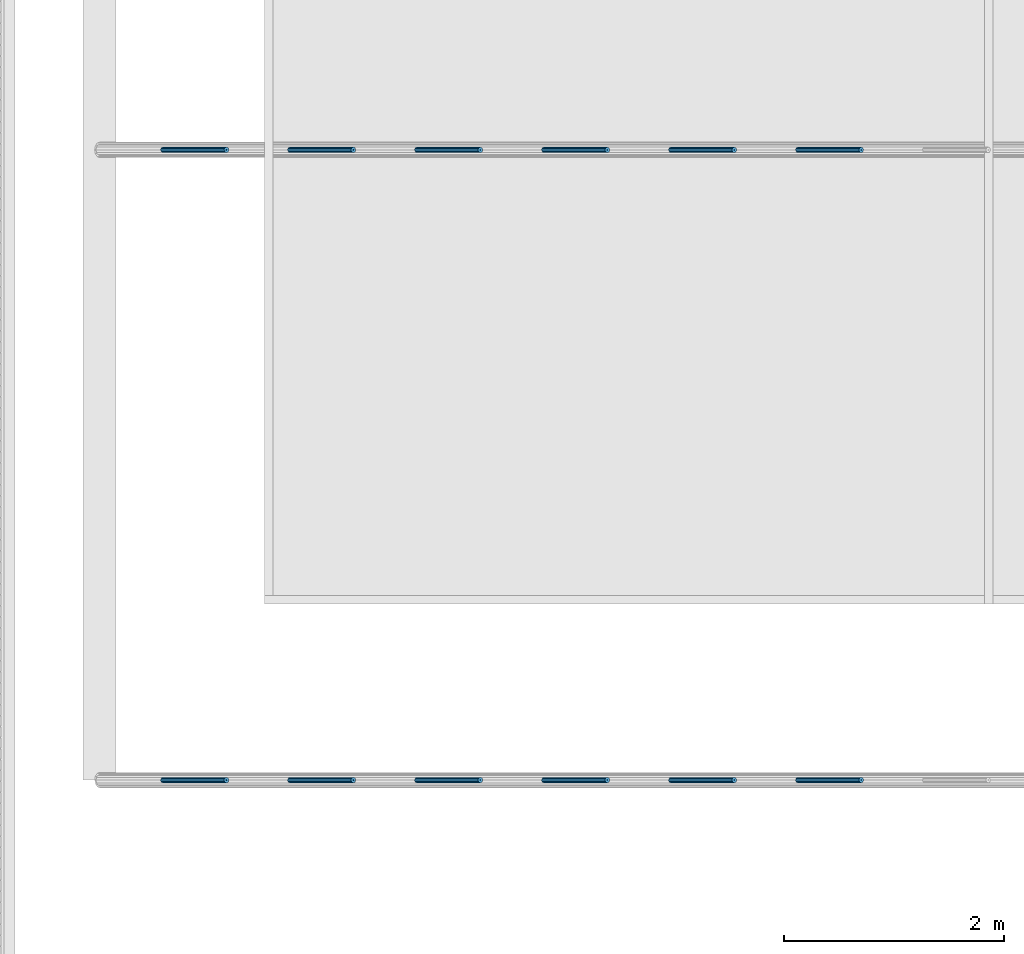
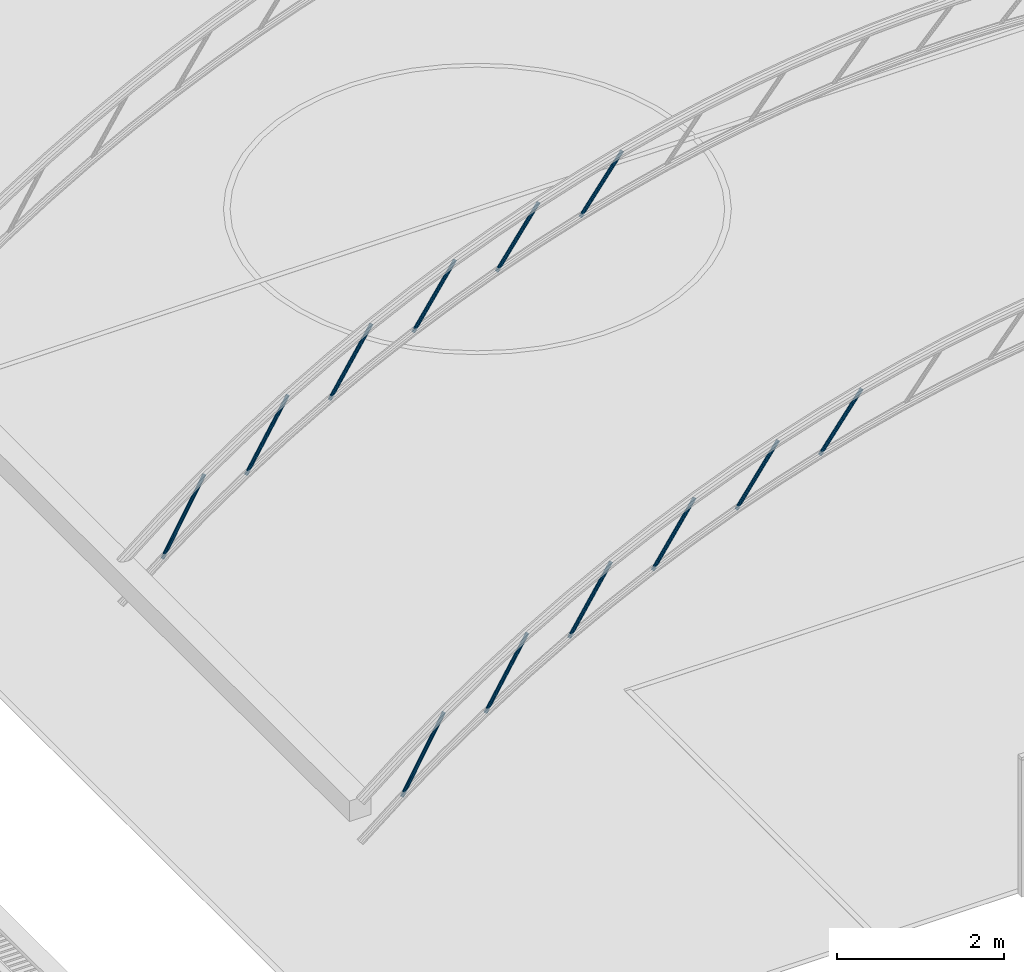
# One storey, part 10 of 90: 12 beams.
"""IFC2X3 building model written with IfcOpenShell, lengths in metres."""

from ifc_helpers import new_model, si_unit, origin, origin_with_axes, place, context, subcontext, project, spatial, faceted_brep, element, save


model = new_model("IFC2X3")

# Units and contexts
model_context = context("Model", 3, precision=1e-05, world=origin_with_axes())
body_context = subcontext(model_context, "Body", "Model", "MODEL_VIEW")
ifc_project = project(units=[si_unit("LENGTHUNIT", "METRE"), si_unit("AREAUNIT", "SQUARE_METRE"), si_unit("VOLUMEUNIT", "CUBIC_METRE"), si_unit("PLANEANGLEUNIT", "RADIAN")], contexts=[model_context])

# Site, building, storey
site_placement = place(None, origin_with_axes())
site = spatial("IfcSite", under=ifc_project, at=site_placement, Name="Predio Los Mangos - Morales, San Martín", CompositionType="ELEMENT")
building_placement = place(site_placement, origin())
building = spatial("IfcBuilding", under=site, at=building_placement, Name="Hogar de Refugio Temporal", CompositionType="ELEMENT")
storey_placement = place(building_placement, origin())
storey = spatial("IfcBuildingStorey", under=building, at=storey_placement, Name="NIVEL 1 (NPT +0.00)", CompositionType="ELEMENT", Elevation=0.0)

# Beams
beam_1_placement = place(storey_placement, origin())
element("IfcBeam", 1, at=beam_1_placement, inside=storey, Name="diag", ObjectType="Viga", context=body_context, shape_type="Brep", body=[
    faceted_brep([(4.0666, 92.6217, 5.8202), (4.6441, 92.6217, 6.8469), (4.655, 92.625, 6.8408), (4.0775, 92.625, 5.8141), (4.0586, 92.6125, 5.8247), (4.6361, 92.6125, 6.8514), (4.0557, 92.6, 5.8263), (4.6332, 92.6, 6.8531), (4.0586, 92.5875, 5.8247), (4.6361, 92.5875, 6.8514), (4.0666, 92.5783, 5.8202), (4.6441, 92.5783, 6.8469), (4.0775, 92.575, 5.8141), (4.655, 92.575, 6.8408), (4.0884, 92.5783, 5.808), (4.6659, 92.5783, 6.8347), (4.0964, 92.5875, 5.8035), (4.6739, 92.5875, 6.8302), (4.0993, 92.6, 5.8018), (4.6768, 92.6, 6.8286), (4.0964, 92.6125, 5.8035), (4.6739, 92.6125, 6.8302), (4.0884, 92.6217, 5.808), (4.6659, 92.6217, 6.8347), (4.0756, 92.6037, 5.8151), (4.0775, 92.6043, 5.8141), (4.655, 92.6043, 6.8408), (4.6531, 92.6037, 6.8419), (4.0743, 92.6021, 5.8159), (4.6518, 92.6021, 6.8426), (4.0738, 92.6, 5.8162), (4.6513, 92.6, 6.8429), (4.0743, 92.5979, 5.8159), (4.6518, 92.5979, 6.8426), (4.0756, 92.5963, 5.8151), (4.6531, 92.5963, 6.8419), (4.0775, 92.5957, 5.8141), (4.655, 92.5957, 6.8408), (4.0794, 92.5963, 5.813), (4.6569, 92.5963, 6.8398), (4.0807, 92.5979, 5.8123), (4.6582, 92.5979, 6.839), (4.0812, 92.6, 5.812), (4.6587, 92.6, 6.8387), (4.0807, 92.6021, 5.8123), (4.6582, 92.6021, 6.839), (4.0794, 92.6037, 5.813), (4.6569, 92.6037, 6.8398)], [[[0, 1, 2, 3]], [[4, 5, 1, 0]], [[6, 7, 5, 4]], [[8, 9, 7, 6]], [[10, 11, 9, 8]], [[12, 13, 11, 10]], [[14, 15, 13, 12]], [[16, 17, 15, 14]], [[18, 19, 17, 16]], [[20, 21, 19, 18]], [[22, 23, 21, 20]], [[3, 2, 23, 22]], [[24, 25, 26, 27]], [[28, 24, 27, 29]], [[30, 28, 29, 31]], [[32, 30, 31, 33]], [[34, 32, 33, 35]], [[36, 34, 35, 37]], [[38, 36, 37, 39]], [[40, 38, 39, 41]], [[42, 40, 41, 43]], [[44, 42, 43, 45]], [[46, 44, 45, 47]], [[25, 46, 47, 26]], [[11, 13, 37, 35]], [[21, 23, 47, 45]], [[4, 0, 24, 28]], [[14, 12, 36, 38]], [[3, 22, 46, 25]], [[7, 9, 33, 31]], [[17, 19, 43, 41]], [[23, 2, 26, 47]], [[10, 8, 32, 34]], [[20, 18, 42, 44]], [[1, 5, 29, 27]], [[13, 15, 39, 37]], [[6, 4, 28, 30]], [[16, 14, 38, 40]], [[0, 3, 25, 24]], [[9, 11, 35, 33]], [[19, 21, 45, 43]], [[12, 10, 34, 36]], [[22, 20, 44, 46]], [[5, 7, 31, 29]], [[15, 17, 41, 39]], [[2, 1, 27, 26]], [[8, 6, 30, 32]], [[18, 16, 40, 42]]]),
])
beam_2_placement = place(storey_placement, origin())
element("IfcBeam", 2, at=beam_2_placement, inside=storey, Name="diag", ObjectType="Viga", context=body_context, shape_type="Brep", body=[
    faceted_brep([(5.2218, 92.6217, 6.6398), (5.7993, 92.6217, 7.6007), (5.81, 92.625, 7.5943), (5.2325, 92.625, 6.6333), (5.2139, 92.6125, 6.6445), (5.7914, 92.6125, 7.6055), (5.2111, 92.6, 6.6462), (5.7886, 92.6, 7.6072), (5.2139, 92.5875, 6.6445), (5.7914, 92.5875, 7.6055), (5.2218, 92.5783, 6.6398), (5.7993, 92.5783, 7.6007), (5.2325, 92.575, 6.6333), (5.81, 92.575, 7.5943), (5.2432, 92.5783, 6.6269), (5.8207, 92.5783, 7.5879), (5.2511, 92.5875, 6.6222), (5.8286, 92.5875, 7.5832), (5.2539, 92.6, 6.6205), (5.8314, 92.6, 7.5814), (5.2511, 92.6125, 6.6222), (5.8286, 92.6125, 7.5832), (5.2432, 92.6217, 6.6269), (5.8207, 92.6217, 7.5879), (5.2307, 92.6037, 6.6345), (5.2325, 92.6043, 6.6333), (5.81, 92.6043, 7.5943), (5.8082, 92.6037, 7.5954), (5.2293, 92.6021, 6.6353), (5.8068, 92.6021, 7.5962), (5.2288, 92.6, 6.6356), (5.8063, 92.6, 7.5965), (5.2293, 92.5979, 6.6353), (5.8068, 92.5979, 7.5962), (5.2307, 92.5963, 6.6345), (5.8082, 92.5963, 7.5954), (5.2325, 92.5957, 6.6333), (5.81, 92.5957, 7.5943), (5.2343, 92.5963, 6.6322), (5.8118, 92.5963, 7.5932), (5.2357, 92.5979, 6.6314), (5.8132, 92.5979, 7.5924), (5.2362, 92.6, 6.6311), (5.8137, 92.6, 7.5921), (5.2357, 92.6021, 6.6314), (5.8132, 92.6021, 7.5924), (5.2343, 92.6037, 6.6322), (5.8118, 92.6037, 7.5932)], [[[0, 1, 2, 3]], [[4, 5, 1, 0]], [[6, 7, 5, 4]], [[8, 9, 7, 6]], [[10, 11, 9, 8]], [[12, 13, 11, 10]], [[14, 15, 13, 12]], [[16, 17, 15, 14]], [[18, 19, 17, 16]], [[20, 21, 19, 18]], [[22, 23, 21, 20]], [[3, 2, 23, 22]], [[24, 25, 26, 27]], [[28, 24, 27, 29]], [[30, 28, 29, 31]], [[32, 30, 31, 33]], [[34, 32, 33, 35]], [[36, 34, 35, 37]], [[38, 36, 37, 39]], [[40, 38, 39, 41]], [[42, 40, 41, 43]], [[44, 42, 43, 45]], [[46, 44, 45, 47]], [[25, 46, 47, 26]], [[11, 13, 37, 35]], [[21, 23, 47, 45]], [[4, 0, 24, 28]], [[14, 12, 36, 38]], [[3, 22, 46, 25]], [[7, 9, 33, 31]], [[17, 19, 43, 41]], [[23, 2, 26, 47]], [[10, 8, 32, 34]], [[20, 18, 42, 44]], [[1, 5, 29, 27]], [[13, 15, 39, 37]], [[6, 4, 28, 30]], [[16, 14, 38, 40]], [[0, 3, 25, 24]], [[9, 11, 35, 33]], [[19, 21, 45, 43]], [[12, 10, 34, 36]], [[22, 20, 44, 46]], [[5, 7, 31, 29]], [[15, 17, 41, 39]], [[2, 1, 27, 26]], [[8, 6, 30, 32]], [[18, 16, 40, 42]]]),
])
beam_3_placement = place(storey_placement, origin())
element("IfcBeam", 3, at=beam_3_placement, inside=storey, Name="diag", ObjectType="Viga", context=body_context, shape_type="Brep", body=[
    faceted_brep([(6.377, 92.6217, 7.3326), (6.9545, 92.6217, 8.2366), (6.965, 92.625, 8.2298), (6.3875, 92.625, 7.3259), (6.3693, 92.6125, 7.3375), (6.9468, 92.6125, 8.2415), (6.3664, 92.6, 7.3393), (6.9439, 92.6, 8.2433), (6.3693, 92.5875, 7.3375), (6.9468, 92.5875, 8.2415), (6.377, 92.5783, 7.3326), (6.9545, 92.5783, 8.2366), (6.3875, 92.575, 7.3259), (6.965, 92.575, 8.2298), (6.398, 92.5783, 7.3191), (6.9755, 92.5783, 8.2231), (6.4057, 92.5875, 7.3142), (6.9832, 92.5875, 8.2182), (6.4086, 92.6, 7.3124), (6.9861, 92.6, 8.2164), (6.4057, 92.6125, 7.3142), (6.9832, 92.6125, 8.2182), (6.398, 92.6217, 7.3191), (6.9755, 92.6217, 8.2231), (6.3857, 92.6037, 7.327), (6.3875, 92.6043, 7.3259), (6.965, 92.6043, 8.2298), (6.9632, 92.6037, 8.231), (6.3844, 92.6021, 7.3279), (6.9619, 92.6021, 8.2318), (6.3839, 92.6, 7.3282), (6.9614, 92.6, 8.2321), (6.3844, 92.5979, 7.3279), (6.9619, 92.5979, 8.2318), (6.3857, 92.5963, 7.327), (6.9632, 92.5963, 8.231), (6.3875, 92.5957, 7.3259), (6.965, 92.5957, 8.2298), (6.3893, 92.5963, 7.3247), (6.9668, 92.5963, 8.2287), (6.3906, 92.5979, 7.3239), (6.9681, 92.5979, 8.2278), (6.3911, 92.6, 7.3235), (6.9686, 92.6, 8.2275), (6.3906, 92.6021, 7.3239), (6.9681, 92.6021, 8.2278), (6.3893, 92.6037, 7.3247), (6.9668, 92.6037, 8.2287)], [[[0, 1, 2, 3]], [[4, 5, 1, 0]], [[6, 7, 5, 4]], [[8, 9, 7, 6]], [[10, 11, 9, 8]], [[12, 13, 11, 10]], [[14, 15, 13, 12]], [[16, 17, 15, 14]], [[18, 19, 17, 16]], [[20, 21, 19, 18]], [[22, 23, 21, 20]], [[3, 2, 23, 22]], [[24, 25, 26, 27]], [[28, 24, 27, 29]], [[30, 28, 29, 31]], [[32, 30, 31, 33]], [[34, 32, 33, 35]], [[36, 34, 35, 37]], [[38, 36, 37, 39]], [[40, 38, 39, 41]], [[42, 40, 41, 43]], [[44, 42, 43, 45]], [[46, 44, 45, 47]], [[25, 46, 47, 26]], [[11, 13, 37, 35]], [[21, 23, 47, 45]], [[4, 0, 24, 28]], [[14, 12, 36, 38]], [[3, 22, 46, 25]], [[7, 9, 33, 31]], [[17, 19, 43, 41]], [[23, 2, 26, 47]], [[10, 8, 32, 34]], [[20, 18, 42, 44]], [[1, 5, 29, 27]], [[13, 15, 39, 37]], [[6, 4, 28, 30]], [[16, 14, 38, 40]], [[0, 3, 25, 24]], [[9, 11, 35, 33]], [[19, 21, 45, 43]], [[12, 10, 34, 36]], [[22, 20, 44, 46]], [[5, 7, 31, 29]], [[15, 17, 41, 39]], [[2, 1, 27, 26]], [[8, 6, 30, 32]], [[18, 16, 40, 42]]]),
])
beam_4_placement = place(storey_placement, origin())
element("IfcBeam", 4, at=beam_4_placement, inside=storey, Name="diag", ObjectType="Viga", context=body_context, shape_type="Brep", body=[
    faceted_brep([(7.5321, 92.6217, 7.9148), (8.1096, 92.6217, 8.7679), (8.12, 92.625, 8.7609), (7.5425, 92.625, 7.9077), (7.5246, 92.6125, 7.9199), (8.1021, 92.6125, 8.7731), (7.5218, 92.6, 7.9218), (8.0993, 92.6, 8.7749), (7.5246, 92.5875, 7.9199), (8.1021, 92.5875, 8.7731), (7.5321, 92.5783, 7.9148), (8.1096, 92.5783, 8.7679), (7.5425, 92.575, 7.9077), (8.12, 92.575, 8.7609), (7.5529, 92.5783, 7.9007), (8.1304, 92.5783, 8.7539), (7.5604, 92.5875, 7.8956), (8.1379, 92.5875, 8.7488), (7.5632, 92.6, 7.8937), (8.1407, 92.6, 8.7469), (7.5604, 92.6125, 7.8956), (8.1379, 92.6125, 8.7488), (7.5529, 92.6217, 7.9007), (8.1304, 92.6217, 8.7539), (7.5407, 92.6037, 7.9089), (7.5425, 92.6043, 7.9077), (8.12, 92.6043, 8.7609), (8.1182, 92.6037, 8.7621), (7.5394, 92.6021, 7.9098), (8.1169, 92.6021, 8.763), (7.5389, 92.6, 7.9102), (8.1164, 92.6, 8.7633), (7.5394, 92.5979, 7.9098), (8.1169, 92.5979, 8.763), (7.5407, 92.5963, 7.9089), (8.1182, 92.5963, 8.7621), (7.5425, 92.5957, 7.9077), (8.12, 92.5957, 8.7609), (7.5443, 92.5963, 7.9065), (8.1218, 92.5963, 8.7597), (7.5456, 92.5979, 7.9057), (8.1231, 92.5979, 8.7588), (7.5461, 92.6, 7.9053), (8.1236, 92.6, 8.7585), (7.5456, 92.6021, 7.9057), (8.1231, 92.6021, 8.7588), (7.5443, 92.6037, 7.9065), (8.1218, 92.6037, 8.7597)], [[[0, 1, 2, 3]], [[4, 5, 1, 0]], [[6, 7, 5, 4]], [[8, 9, 7, 6]], [[10, 11, 9, 8]], [[12, 13, 11, 10]], [[14, 15, 13, 12]], [[16, 17, 15, 14]], [[18, 19, 17, 16]], [[20, 21, 19, 18]], [[22, 23, 21, 20]], [[3, 2, 23, 22]], [[24, 25, 26, 27]], [[28, 24, 27, 29]], [[30, 28, 29, 31]], [[32, 30, 31, 33]], [[34, 32, 33, 35]], [[36, 34, 35, 37]], [[38, 36, 37, 39]], [[40, 38, 39, 41]], [[42, 40, 41, 43]], [[44, 42, 43, 45]], [[46, 44, 45, 47]], [[25, 46, 47, 26]], [[11, 13, 37, 35]], [[21, 23, 47, 45]], [[4, 0, 24, 28]], [[14, 12, 36, 38]], [[3, 22, 46, 25]], [[7, 9, 33, 31]], [[17, 19, 43, 41]], [[23, 2, 26, 47]], [[10, 8, 32, 34]], [[20, 18, 42, 44]], [[1, 5, 29, 27]], [[13, 15, 39, 37]], [[6, 4, 28, 30]], [[16, 14, 38, 40]], [[0, 3, 25, 24]], [[9, 11, 35, 33]], [[19, 21, 45, 43]], [[12, 10, 34, 36]], [[22, 20, 44, 46]], [[5, 7, 31, 29]], [[15, 17, 41, 39]], [[2, 1, 27, 26]], [[8, 6, 30, 32]], [[18, 16, 40, 42]]]),
])
beam_5_placement = place(storey_placement, origin())
element("IfcBeam", 5, at=beam_5_placement, inside=storey, Name="diag", ObjectType="Viga", context=body_context, shape_type="Brep", body=[
    faceted_brep([(8.6873, 92.6217, 8.3978), (9.2648, 92.6217, 9.2047), (9.275, 92.625, 9.1974), (8.6975, 92.625, 8.3905), (8.6799, 92.6125, 8.4031), (9.2574, 92.6125, 9.21), (8.6772, 92.6, 8.405), (9.2547, 92.6, 9.2119), (8.6799, 92.5875, 8.4031), (9.2574, 92.5875, 9.21), (8.6873, 92.5783, 8.3978), (9.2648, 92.5783, 9.2047), (8.6975, 92.575, 8.3905), (9.275, 92.575, 9.1974), (8.7077, 92.5783, 8.3832), (9.2852, 92.5783, 9.1901), (8.7151, 92.5875, 8.3779), (9.2926, 92.5875, 9.1848), (8.7178, 92.6, 8.3759), (9.2953, 92.6, 9.1828), (8.7151, 92.6125, 8.3779), (9.2926, 92.6125, 9.1848), (8.7077, 92.6217, 8.3832), (9.2852, 92.6217, 9.1901), (8.6958, 92.6037, 8.3917), (8.6975, 92.6043, 8.3905), (9.275, 92.6043, 9.1974), (9.2733, 92.6037, 9.1986), (8.6945, 92.6021, 8.3927), (9.272, 92.6021, 9.1996), (8.694, 92.6, 8.393), (9.2715, 92.6, 9.1999), (8.6945, 92.5979, 8.3927), (9.272, 92.5979, 9.1996), (8.6958, 92.5963, 8.3917), (9.2733, 92.5963, 9.1986), (8.6975, 92.5957, 8.3905), (9.275, 92.5957, 9.1974), (8.6992, 92.5963, 8.3892), (9.2767, 92.5963, 9.1961), (8.7005, 92.5979, 8.3883), (9.278, 92.5979, 9.1952), (8.701, 92.6, 8.388), (9.2785, 92.6, 9.1949), (8.7005, 92.6021, 8.3883), (9.278, 92.6021, 9.1952), (8.6992, 92.6037, 8.3892), (9.2767, 92.6037, 9.1961)], [[[0, 1, 2, 3]], [[4, 5, 1, 0]], [[6, 7, 5, 4]], [[8, 9, 7, 6]], [[10, 11, 9, 8]], [[12, 13, 11, 10]], [[14, 15, 13, 12]], [[16, 17, 15, 14]], [[18, 19, 17, 16]], [[20, 21, 19, 18]], [[22, 23, 21, 20]], [[3, 2, 23, 22]], [[24, 25, 26, 27]], [[28, 24, 27, 29]], [[30, 28, 29, 31]], [[32, 30, 31, 33]], [[34, 32, 33, 35]], [[36, 34, 35, 37]], [[38, 36, 37, 39]], [[40, 38, 39, 41]], [[42, 40, 41, 43]], [[44, 42, 43, 45]], [[46, 44, 45, 47]], [[25, 46, 47, 26]], [[11, 13, 37, 35]], [[21, 23, 47, 45]], [[4, 0, 24, 28]], [[14, 12, 36, 38]], [[3, 22, 46, 25]], [[7, 9, 33, 31]], [[17, 19, 43, 41]], [[23, 2, 26, 47]], [[10, 8, 32, 34]], [[20, 18, 42, 44]], [[1, 5, 29, 27]], [[13, 15, 39, 37]], [[6, 4, 28, 30]], [[16, 14, 38, 40]], [[0, 3, 25, 24]], [[9, 11, 35, 33]], [[19, 21, 45, 43]], [[12, 10, 34, 36]], [[22, 20, 44, 46]], [[5, 7, 31, 29]], [[15, 17, 41, 39]], [[2, 1, 27, 26]], [[8, 6, 30, 32]], [[18, 16, 40, 42]]]),
])
beam_6_placement = place(storey_placement, origin())
element("IfcBeam", 6, at=beam_6_placement, inside=storey, Name="diag", ObjectType="Viga", context=body_context, shape_type="Brep", body=[
    faceted_brep([(9.8425, 92.6217, 8.79), (10.42, 92.6217, 9.5539), (10.43, 92.625, 9.5463), (9.8525, 92.625, 8.7824), (9.8352, 92.6125, 8.7955), (10.4127, 92.6125, 9.5594), (9.8326, 92.6, 8.7975), (10.4101, 92.6, 9.5614), (9.8352, 92.5875, 8.7955), (10.4127, 92.5875, 9.5594), (9.8425, 92.5783, 8.79), (10.42, 92.5783, 9.5539), (9.8525, 92.575, 8.7824), (10.43, 92.575, 9.5463), (9.8625, 92.5783, 8.7749), (10.44, 92.5783, 9.5388), (9.8698, 92.5875, 8.7694), (10.4473, 92.5875, 9.5333), (9.8724, 92.6, 8.7674), (10.4499, 92.6, 9.5313), (9.8698, 92.6125, 8.7694), (10.4473, 92.6125, 9.5333), (9.8625, 92.6217, 8.7749), (10.44, 92.6217, 9.5388), (9.8508, 92.6037, 8.7837), (9.8525, 92.6043, 8.7824), (10.43, 92.6043, 9.5463), (10.4283, 92.6037, 9.5476), (9.8495, 92.6021, 8.7847), (10.427, 92.6021, 9.5486), (9.8491, 92.6, 8.785), (10.4266, 92.6, 9.5489), (9.8495, 92.5979, 8.7847), (10.427, 92.5979, 9.5486), (9.8508, 92.5963, 8.7837), (10.4283, 92.5963, 9.5476), (9.8525, 92.5957, 8.7824), (10.43, 92.5957, 9.5463), (9.8542, 92.5963, 8.7812), (10.4317, 92.5963, 9.5451), (9.8555, 92.5979, 8.7802), (10.433, 92.5979, 9.5441), (9.8559, 92.6, 8.7799), (10.4334, 92.6, 9.5438), (9.8555, 92.6021, 8.7802), (10.433, 92.6021, 9.5441), (9.8542, 92.6037, 8.7812), (10.4317, 92.6037, 9.5451)], [[[0, 1, 2, 3]], [[4, 5, 1, 0]], [[6, 7, 5, 4]], [[8, 9, 7, 6]], [[10, 11, 9, 8]], [[12, 13, 11, 10]], [[14, 15, 13, 12]], [[16, 17, 15, 14]], [[18, 19, 17, 16]], [[20, 21, 19, 18]], [[22, 23, 21, 20]], [[3, 2, 23, 22]], [[24, 25, 26, 27]], [[28, 24, 27, 29]], [[30, 28, 29, 31]], [[32, 30, 31, 33]], [[34, 32, 33, 35]], [[36, 34, 35, 37]], [[38, 36, 37, 39]], [[40, 38, 39, 41]], [[42, 40, 41, 43]], [[44, 42, 43, 45]], [[46, 44, 45, 47]], [[25, 46, 47, 26]], [[11, 13, 37, 35]], [[21, 23, 47, 45]], [[4, 0, 24, 28]], [[14, 12, 36, 38]], [[3, 22, 46, 25]], [[7, 9, 33, 31]], [[17, 19, 43, 41]], [[23, 2, 26, 47]], [[10, 8, 32, 34]], [[20, 18, 42, 44]], [[1, 5, 29, 27]], [[13, 15, 39, 37]], [[6, 4, 28, 30]], [[16, 14, 38, 40]], [[0, 3, 25, 24]], [[9, 11, 35, 33]], [[19, 21, 45, 43]], [[12, 10, 34, 36]], [[22, 20, 44, 46]], [[5, 7, 31, 29]], [[15, 17, 41, 39]], [[2, 1, 27, 26]], [[8, 6, 30, 32]], [[18, 16, 40, 42]]]),
])
beam_7_placement = place(storey_placement, origin())
element("IfcBeam", 7, at=beam_7_placement, inside=storey, Name="diag", ObjectType="Viga", context=body_context, shape_type="Brep", body=[
    faceted_brep([(4.0666, 98.355, 5.8202), (4.6441, 98.355, 6.8469), (4.655, 98.3583, 6.8408), (4.0775, 98.3583, 5.8141), (4.0586, 98.3458, 5.8247), (4.6361, 98.3458, 6.8514), (4.0557, 98.3333, 5.8263), (4.6332, 98.3333, 6.8531), (4.0586, 98.3208, 5.8247), (4.6361, 98.3208, 6.8514), (4.0666, 98.3117, 5.8202), (4.6441, 98.3117, 6.8469), (4.0775, 98.3083, 5.8141), (4.655, 98.3083, 6.8408), (4.0884, 98.3117, 5.808), (4.6659, 98.3117, 6.8347), (4.0964, 98.3208, 5.8035), (4.6739, 98.3208, 6.8302), (4.0993, 98.3333, 5.8018), (4.6768, 98.3333, 6.8286), (4.0964, 98.3458, 5.8035), (4.6739, 98.3458, 6.8302), (4.0884, 98.355, 5.808), (4.6659, 98.355, 6.8347), (4.0756, 98.3371, 5.8151), (4.0775, 98.3376, 5.8141), (4.655, 98.3376, 6.8408), (4.6531, 98.3371, 6.8419), (4.0743, 98.3355, 5.8159), (4.6518, 98.3355, 6.8426), (4.0738, 98.3333, 5.8162), (4.6513, 98.3333, 6.8429), (4.0743, 98.3312, 5.8159), (4.6518, 98.3312, 6.8426), (4.0756, 98.3296, 5.8151), (4.6531, 98.3296, 6.8419), (4.0775, 98.329, 5.8141), (4.655, 98.329, 6.8408), (4.0794, 98.3296, 5.813), (4.6569, 98.3296, 6.8398), (4.0807, 98.3312, 5.8123), (4.6582, 98.3312, 6.839), (4.0812, 98.3333, 5.812), (4.6587, 98.3333, 6.8387), (4.0807, 98.3355, 5.8123), (4.6582, 98.3355, 6.839), (4.0794, 98.3371, 5.813), (4.6569, 98.3371, 6.8398)], [[[0, 1, 2, 3]], [[4, 5, 1, 0]], [[6, 7, 5, 4]], [[8, 9, 7, 6]], [[10, 11, 9, 8]], [[12, 13, 11, 10]], [[14, 15, 13, 12]], [[16, 17, 15, 14]], [[18, 19, 17, 16]], [[20, 21, 19, 18]], [[22, 23, 21, 20]], [[3, 2, 23, 22]], [[24, 25, 26, 27]], [[28, 24, 27, 29]], [[30, 28, 29, 31]], [[32, 30, 31, 33]], [[34, 32, 33, 35]], [[36, 34, 35, 37]], [[38, 36, 37, 39]], [[40, 38, 39, 41]], [[42, 40, 41, 43]], [[44, 42, 43, 45]], [[46, 44, 45, 47]], [[25, 46, 47, 26]], [[11, 13, 37, 35]], [[21, 23, 47, 45]], [[4, 0, 24, 28]], [[14, 12, 36, 38]], [[3, 22, 46, 25]], [[7, 9, 33, 31]], [[17, 19, 43, 41]], [[23, 2, 26, 47]], [[10, 8, 32, 34]], [[20, 18, 42, 44]], [[1, 5, 29, 27]], [[13, 15, 39, 37]], [[6, 4, 28, 30]], [[16, 14, 38, 40]], [[0, 3, 25, 24]], [[9, 11, 35, 33]], [[19, 21, 45, 43]], [[12, 10, 34, 36]], [[22, 20, 44, 46]], [[5, 7, 31, 29]], [[15, 17, 41, 39]], [[2, 1, 27, 26]], [[8, 6, 30, 32]], [[18, 16, 40, 42]]]),
])
beam_8_placement = place(storey_placement, origin())
element("IfcBeam", 8, at=beam_8_placement, inside=storey, Name="diag", ObjectType="Viga", context=body_context, shape_type="Brep", body=[
    faceted_brep([(5.2218, 98.355, 6.6398), (5.7993, 98.355, 7.6007), (5.81, 98.3583, 7.5943), (5.2325, 98.3583, 6.6333), (5.2139, 98.3458, 6.6445), (5.7914, 98.3458, 7.6055), (5.2111, 98.3333, 6.6462), (5.7886, 98.3333, 7.6072), (5.2139, 98.3208, 6.6445), (5.7914, 98.3208, 7.6055), (5.2218, 98.3117, 6.6398), (5.7993, 98.3117, 7.6007), (5.2325, 98.3083, 6.6333), (5.81, 98.3083, 7.5943), (5.2432, 98.3117, 6.6269), (5.8207, 98.3117, 7.5879), (5.2511, 98.3208, 6.6222), (5.8286, 98.3208, 7.5832), (5.2539, 98.3333, 6.6205), (5.8314, 98.3333, 7.5814), (5.2511, 98.3458, 6.6222), (5.8286, 98.3458, 7.5832), (5.2432, 98.355, 6.6269), (5.8207, 98.355, 7.5879), (5.2307, 98.3371, 6.6345), (5.2325, 98.3376, 6.6333), (5.81, 98.3376, 7.5943), (5.8082, 98.3371, 7.5954), (5.2293, 98.3355, 6.6353), (5.8068, 98.3355, 7.5962), (5.2288, 98.3333, 6.6356), (5.8063, 98.3333, 7.5965), (5.2293, 98.3312, 6.6353), (5.8068, 98.3312, 7.5962), (5.2307, 98.3296, 6.6345), (5.8082, 98.3296, 7.5954), (5.2325, 98.329, 6.6333), (5.81, 98.329, 7.5943), (5.2343, 98.3296, 6.6322), (5.8118, 98.3296, 7.5932), (5.2357, 98.3312, 6.6314), (5.8132, 98.3312, 7.5924), (5.2362, 98.3333, 6.6311), (5.8137, 98.3333, 7.5921), (5.2357, 98.3355, 6.6314), (5.8132, 98.3355, 7.5924), (5.2343, 98.3371, 6.6322), (5.8118, 98.3371, 7.5932)], [[[0, 1, 2, 3]], [[4, 5, 1, 0]], [[6, 7, 5, 4]], [[8, 9, 7, 6]], [[10, 11, 9, 8]], [[12, 13, 11, 10]], [[14, 15, 13, 12]], [[16, 17, 15, 14]], [[18, 19, 17, 16]], [[20, 21, 19, 18]], [[22, 23, 21, 20]], [[3, 2, 23, 22]], [[24, 25, 26, 27]], [[28, 24, 27, 29]], [[30, 28, 29, 31]], [[32, 30, 31, 33]], [[34, 32, 33, 35]], [[36, 34, 35, 37]], [[38, 36, 37, 39]], [[40, 38, 39, 41]], [[42, 40, 41, 43]], [[44, 42, 43, 45]], [[46, 44, 45, 47]], [[25, 46, 47, 26]], [[11, 13, 37, 35]], [[21, 23, 47, 45]], [[4, 0, 24, 28]], [[14, 12, 36, 38]], [[3, 22, 46, 25]], [[7, 9, 33, 31]], [[17, 19, 43, 41]], [[23, 2, 26, 47]], [[10, 8, 32, 34]], [[20, 18, 42, 44]], [[1, 5, 29, 27]], [[13, 15, 39, 37]], [[6, 4, 28, 30]], [[16, 14, 38, 40]], [[0, 3, 25, 24]], [[9, 11, 35, 33]], [[19, 21, 45, 43]], [[12, 10, 34, 36]], [[22, 20, 44, 46]], [[5, 7, 31, 29]], [[15, 17, 41, 39]], [[2, 1, 27, 26]], [[8, 6, 30, 32]], [[18, 16, 40, 42]]]),
])
beam_9_placement = place(storey_placement, origin())
element("IfcBeam", 9, at=beam_9_placement, inside=storey, Name="diag", ObjectType="Viga", context=body_context, shape_type="Brep", body=[
    faceted_brep([(6.377, 98.355, 7.3326), (6.9545, 98.355, 8.2366), (6.965, 98.3583, 8.2298), (6.3875, 98.3583, 7.3259), (6.3693, 98.3458, 7.3375), (6.9468, 98.3458, 8.2415), (6.3664, 98.3333, 7.3393), (6.9439, 98.3333, 8.2433), (6.3693, 98.3208, 7.3375), (6.9468, 98.3208, 8.2415), (6.377, 98.3117, 7.3326), (6.9545, 98.3117, 8.2366), (6.3875, 98.3083, 7.3259), (6.965, 98.3083, 8.2298), (6.398, 98.3117, 7.3191), (6.9755, 98.3117, 8.2231), (6.4057, 98.3208, 7.3142), (6.9832, 98.3208, 8.2182), (6.4086, 98.3333, 7.3124), (6.9861, 98.3333, 8.2164), (6.4057, 98.3458, 7.3142), (6.9832, 98.3458, 8.2182), (6.398, 98.355, 7.3191), (6.9755, 98.355, 8.2231), (6.3857, 98.3371, 7.327), (6.3875, 98.3376, 7.3259), (6.965, 98.3376, 8.2298), (6.9632, 98.3371, 8.231), (6.3844, 98.3355, 7.3279), (6.9619, 98.3355, 8.2318), (6.3839, 98.3333, 7.3282), (6.9614, 98.3333, 8.2321), (6.3844, 98.3312, 7.3279), (6.9619, 98.3312, 8.2318), (6.3857, 98.3296, 7.327), (6.9632, 98.3296, 8.231), (6.3875, 98.329, 7.3259), (6.965, 98.329, 8.2298), (6.3893, 98.3296, 7.3247), (6.9668, 98.3296, 8.2287), (6.3906, 98.3312, 7.3239), (6.9681, 98.3312, 8.2278), (6.3911, 98.3333, 7.3235), (6.9686, 98.3333, 8.2275), (6.3906, 98.3355, 7.3239), (6.9681, 98.3355, 8.2278), (6.3893, 98.3371, 7.3247), (6.9668, 98.3371, 8.2287)], [[[0, 1, 2, 3]], [[4, 5, 1, 0]], [[6, 7, 5, 4]], [[8, 9, 7, 6]], [[10, 11, 9, 8]], [[12, 13, 11, 10]], [[14, 15, 13, 12]], [[16, 17, 15, 14]], [[18, 19, 17, 16]], [[20, 21, 19, 18]], [[22, 23, 21, 20]], [[3, 2, 23, 22]], [[24, 25, 26, 27]], [[28, 24, 27, 29]], [[30, 28, 29, 31]], [[32, 30, 31, 33]], [[34, 32, 33, 35]], [[36, 34, 35, 37]], [[38, 36, 37, 39]], [[40, 38, 39, 41]], [[42, 40, 41, 43]], [[44, 42, 43, 45]], [[46, 44, 45, 47]], [[25, 46, 47, 26]], [[11, 13, 37, 35]], [[21, 23, 47, 45]], [[4, 0, 24, 28]], [[14, 12, 36, 38]], [[3, 22, 46, 25]], [[7, 9, 33, 31]], [[17, 19, 43, 41]], [[23, 2, 26, 47]], [[10, 8, 32, 34]], [[20, 18, 42, 44]], [[1, 5, 29, 27]], [[13, 15, 39, 37]], [[6, 4, 28, 30]], [[16, 14, 38, 40]], [[0, 3, 25, 24]], [[9, 11, 35, 33]], [[19, 21, 45, 43]], [[12, 10, 34, 36]], [[22, 20, 44, 46]], [[5, 7, 31, 29]], [[15, 17, 41, 39]], [[2, 1, 27, 26]], [[8, 6, 30, 32]], [[18, 16, 40, 42]]]),
])
beam_10_placement = place(storey_placement, origin())
element("IfcBeam", 10, at=beam_10_placement, inside=storey, Name="diag", ObjectType="Viga", context=body_context, shape_type="Brep", body=[
    faceted_brep([(7.5321, 98.355, 7.9148), (8.1096, 98.355, 8.7679), (8.12, 98.3583, 8.7609), (7.5425, 98.3583, 7.9077), (7.5246, 98.3458, 7.9199), (8.1021, 98.3458, 8.7731), (7.5218, 98.3333, 7.9218), (8.0993, 98.3333, 8.7749), (7.5246, 98.3208, 7.9199), (8.1021, 98.3208, 8.7731), (7.5321, 98.3117, 7.9148), (8.1096, 98.3117, 8.7679), (7.5425, 98.3083, 7.9077), (8.12, 98.3083, 8.7609), (7.5529, 98.3117, 7.9007), (8.1304, 98.3117, 8.7539), (7.5604, 98.3208, 7.8956), (8.1379, 98.3208, 8.7488), (7.5632, 98.3333, 7.8937), (8.1407, 98.3333, 8.7469), (7.5604, 98.3458, 7.8956), (8.1379, 98.3458, 8.7488), (7.5529, 98.355, 7.9007), (8.1304, 98.355, 8.7539), (7.5407, 98.3371, 7.9089), (7.5425, 98.3376, 7.9077), (8.12, 98.3376, 8.7609), (8.1182, 98.3371, 8.7621), (7.5394, 98.3355, 7.9098), (8.1169, 98.3355, 8.763), (7.5389, 98.3333, 7.9102), (8.1164, 98.3333, 8.7633), (7.5394, 98.3312, 7.9098), (8.1169, 98.3312, 8.763), (7.5407, 98.3296, 7.9089), (8.1182, 98.3296, 8.7621), (7.5425, 98.329, 7.9077), (8.12, 98.329, 8.7609), (7.5443, 98.3296, 7.9065), (8.1218, 98.3296, 8.7597), (7.5456, 98.3312, 7.9057), (8.1231, 98.3312, 8.7588), (7.5461, 98.3333, 7.9053), (8.1236, 98.3333, 8.7585), (7.5456, 98.3355, 7.9057), (8.1231, 98.3355, 8.7588), (7.5443, 98.3371, 7.9065), (8.1218, 98.3371, 8.7597)], [[[0, 1, 2, 3]], [[4, 5, 1, 0]], [[6, 7, 5, 4]], [[8, 9, 7, 6]], [[10, 11, 9, 8]], [[12, 13, 11, 10]], [[14, 15, 13, 12]], [[16, 17, 15, 14]], [[18, 19, 17, 16]], [[20, 21, 19, 18]], [[22, 23, 21, 20]], [[3, 2, 23, 22]], [[24, 25, 26, 27]], [[28, 24, 27, 29]], [[30, 28, 29, 31]], [[32, 30, 31, 33]], [[34, 32, 33, 35]], [[36, 34, 35, 37]], [[38, 36, 37, 39]], [[40, 38, 39, 41]], [[42, 40, 41, 43]], [[44, 42, 43, 45]], [[46, 44, 45, 47]], [[25, 46, 47, 26]], [[11, 13, 37, 35]], [[21, 23, 47, 45]], [[4, 0, 24, 28]], [[14, 12, 36, 38]], [[3, 22, 46, 25]], [[7, 9, 33, 31]], [[17, 19, 43, 41]], [[23, 2, 26, 47]], [[10, 8, 32, 34]], [[20, 18, 42, 44]], [[1, 5, 29, 27]], [[13, 15, 39, 37]], [[6, 4, 28, 30]], [[16, 14, 38, 40]], [[0, 3, 25, 24]], [[9, 11, 35, 33]], [[19, 21, 45, 43]], [[12, 10, 34, 36]], [[22, 20, 44, 46]], [[5, 7, 31, 29]], [[15, 17, 41, 39]], [[2, 1, 27, 26]], [[8, 6, 30, 32]], [[18, 16, 40, 42]]]),
])
beam_11_placement = place(storey_placement, origin())
element("IfcBeam", 11, at=beam_11_placement, inside=storey, Name="diag", ObjectType="Viga", context=body_context, shape_type="Brep", body=[
    faceted_brep([(8.6873, 98.355, 8.3978), (9.2648, 98.355, 9.2047), (9.275, 98.3583, 9.1974), (8.6975, 98.3583, 8.3905), (8.6799, 98.3458, 8.4031), (9.2574, 98.3458, 9.21), (8.6772, 98.3333, 8.405), (9.2547, 98.3333, 9.2119), (8.6799, 98.3208, 8.4031), (9.2574, 98.3208, 9.21), (8.6873, 98.3117, 8.3978), (9.2648, 98.3117, 9.2047), (8.6975, 98.3083, 8.3905), (9.275, 98.3083, 9.1974), (8.7077, 98.3117, 8.3832), (9.2852, 98.3117, 9.1901), (8.7151, 98.3208, 8.3779), (9.2926, 98.3208, 9.1848), (8.7178, 98.3333, 8.3759), (9.2953, 98.3333, 9.1828), (8.7151, 98.3458, 8.3779), (9.2926, 98.3458, 9.1848), (8.7077, 98.355, 8.3832), (9.2852, 98.355, 9.1901), (8.6958, 98.3371, 8.3917), (8.6975, 98.3376, 8.3905), (9.275, 98.3376, 9.1974), (9.2733, 98.3371, 9.1986), (8.6945, 98.3355, 8.3927), (9.272, 98.3355, 9.1996), (8.694, 98.3333, 8.393), (9.2715, 98.3333, 9.1999), (8.6945, 98.3312, 8.3927), (9.272, 98.3312, 9.1996), (8.6958, 98.3296, 8.3917), (9.2733, 98.3296, 9.1986), (8.6975, 98.329, 8.3905), (9.275, 98.329, 9.1974), (8.6992, 98.3296, 8.3892), (9.2767, 98.3296, 9.1961), (8.7005, 98.3312, 8.3883), (9.278, 98.3312, 9.1952), (8.701, 98.3333, 8.388), (9.2785, 98.3333, 9.1949), (8.7005, 98.3355, 8.3883), (9.278, 98.3355, 9.1952), (8.6992, 98.3371, 8.3892), (9.2767, 98.3371, 9.1961)], [[[0, 1, 2, 3]], [[4, 5, 1, 0]], [[6, 7, 5, 4]], [[8, 9, 7, 6]], [[10, 11, 9, 8]], [[12, 13, 11, 10]], [[14, 15, 13, 12]], [[16, 17, 15, 14]], [[18, 19, 17, 16]], [[20, 21, 19, 18]], [[22, 23, 21, 20]], [[3, 2, 23, 22]], [[24, 25, 26, 27]], [[28, 24, 27, 29]], [[30, 28, 29, 31]], [[32, 30, 31, 33]], [[34, 32, 33, 35]], [[36, 34, 35, 37]], [[38, 36, 37, 39]], [[40, 38, 39, 41]], [[42, 40, 41, 43]], [[44, 42, 43, 45]], [[46, 44, 45, 47]], [[25, 46, 47, 26]], [[11, 13, 37, 35]], [[21, 23, 47, 45]], [[4, 0, 24, 28]], [[14, 12, 36, 38]], [[3, 22, 46, 25]], [[7, 9, 33, 31]], [[17, 19, 43, 41]], [[23, 2, 26, 47]], [[10, 8, 32, 34]], [[20, 18, 42, 44]], [[1, 5, 29, 27]], [[13, 15, 39, 37]], [[6, 4, 28, 30]], [[16, 14, 38, 40]], [[0, 3, 25, 24]], [[9, 11, 35, 33]], [[19, 21, 45, 43]], [[12, 10, 34, 36]], [[22, 20, 44, 46]], [[5, 7, 31, 29]], [[15, 17, 41, 39]], [[2, 1, 27, 26]], [[8, 6, 30, 32]], [[18, 16, 40, 42]]]),
])
beam_12_placement = place(storey_placement, origin())
element("IfcBeam", 12, at=beam_12_placement, inside=storey, Name="diag", ObjectType="Viga", context=body_context, shape_type="Brep", body=[
    faceted_brep([(9.8425, 98.355, 8.79), (10.42, 98.355, 9.5539), (10.43, 98.3583, 9.5463), (9.8525, 98.3583, 8.7824), (9.8352, 98.3458, 8.7955), (10.4127, 98.3458, 9.5594), (9.8326, 98.3333, 8.7975), (10.4101, 98.3333, 9.5614), (9.8352, 98.3208, 8.7955), (10.4127, 98.3208, 9.5594), (9.8425, 98.3117, 8.79), (10.42, 98.3117, 9.5539), (9.8525, 98.3083, 8.7824), (10.43, 98.3083, 9.5463), (9.8625, 98.3117, 8.7749), (10.44, 98.3117, 9.5388), (9.8698, 98.3208, 8.7694), (10.4473, 98.3208, 9.5333), (9.8724, 98.3333, 8.7674), (10.4499, 98.3333, 9.5313), (9.8698, 98.3458, 8.7694), (10.4473, 98.3458, 9.5333), (9.8625, 98.355, 8.7749), (10.44, 98.355, 9.5388), (9.8508, 98.3371, 8.7837), (9.8525, 98.3376, 8.7824), (10.43, 98.3376, 9.5463), (10.4283, 98.3371, 9.5476), (9.8495, 98.3355, 8.7847), (10.427, 98.3355, 9.5486), (9.8491, 98.3333, 8.785), (10.4266, 98.3333, 9.5489), (9.8495, 98.3312, 8.7847), (10.427, 98.3312, 9.5486), (9.8508, 98.3296, 8.7837), (10.4283, 98.3296, 9.5476), (9.8525, 98.329, 8.7824), (10.43, 98.329, 9.5463), (9.8542, 98.3296, 8.7812), (10.4317, 98.3296, 9.5451), (9.8555, 98.3312, 8.7802), (10.433, 98.3312, 9.5441), (9.8559, 98.3333, 8.7799), (10.4334, 98.3333, 9.5438), (9.8555, 98.3355, 8.7802), (10.433, 98.3355, 9.5441), (9.8542, 98.3371, 8.7812), (10.4317, 98.3371, 9.5451)], [[[0, 1, 2, 3]], [[4, 5, 1, 0]], [[6, 7, 5, 4]], [[8, 9, 7, 6]], [[10, 11, 9, 8]], [[12, 13, 11, 10]], [[14, 15, 13, 12]], [[16, 17, 15, 14]], [[18, 19, 17, 16]], [[20, 21, 19, 18]], [[22, 23, 21, 20]], [[3, 2, 23, 22]], [[24, 25, 26, 27]], [[28, 24, 27, 29]], [[30, 28, 29, 31]], [[32, 30, 31, 33]], [[34, 32, 33, 35]], [[36, 34, 35, 37]], [[38, 36, 37, 39]], [[40, 38, 39, 41]], [[42, 40, 41, 43]], [[44, 42, 43, 45]], [[46, 44, 45, 47]], [[25, 46, 47, 26]], [[11, 13, 37, 35]], [[21, 23, 47, 45]], [[4, 0, 24, 28]], [[14, 12, 36, 38]], [[3, 22, 46, 25]], [[7, 9, 33, 31]], [[17, 19, 43, 41]], [[23, 2, 26, 47]], [[10, 8, 32, 34]], [[20, 18, 42, 44]], [[1, 5, 29, 27]], [[13, 15, 39, 37]], [[6, 4, 28, 30]], [[16, 14, 38, 40]], [[0, 3, 25, 24]], [[9, 11, 35, 33]], [[19, 21, 45, 43]], [[12, 10, 34, 36]], [[22, 20, 44, 46]], [[5, 7, 31, 29]], [[15, 17, 41, 39]], [[2, 1, 27, 26]], [[8, 6, 30, 32]], [[18, 16, 40, 42]]]),
])

save(model, "model.ifc")
